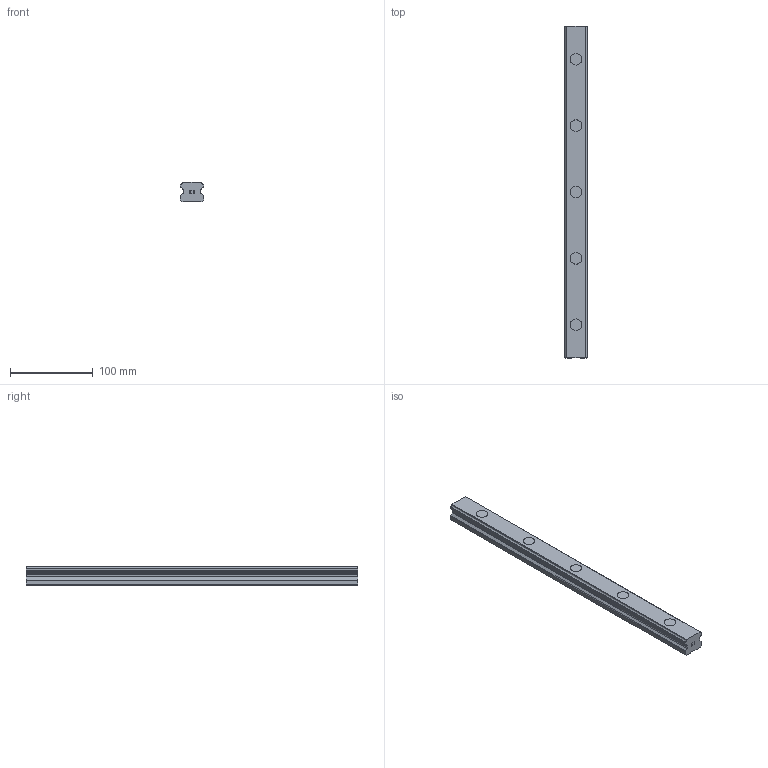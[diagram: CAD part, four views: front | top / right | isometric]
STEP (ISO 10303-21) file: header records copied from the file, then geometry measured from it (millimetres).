
FILE_DESCRIPTION(('no description'),'unknown implementation level');
FILE_NAME('EGR30U_400_H_3.stp',' ',('HIWIN GmbH'),('CADClick - KiM GmbH - www.kimweb.de'),'unknown preprocess','ACIS','unknown authorization');
FILE_SCHEMA(('CONFIG_CONTROL_DESIGN'));
Length unit declared in the file: millimetre
Products named in the file (1): 1
Bounding box: 28 x 400 x 23 mm (x, y, z)
Volume: 218423.3 mm3; surface area: 47218.4 mm2
Topology: 1 solids, 1 shells, 153 faces, 411 edges, 274 vertices
Faces by surface type: plane 105, cylinder 48
Entity records: 4845 total; most frequent: CARTESIAN_POINT 839, DIRECTION 835, ORIENTED_EDGE 822, EDGE_CURVE 411, LINE 295, VECTOR 295, VERTEX_POINT 274, AXIS2_PLACEMENT_3D 270
